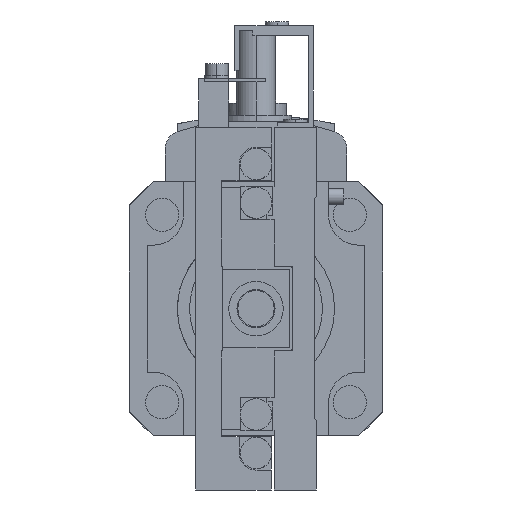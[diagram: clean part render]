
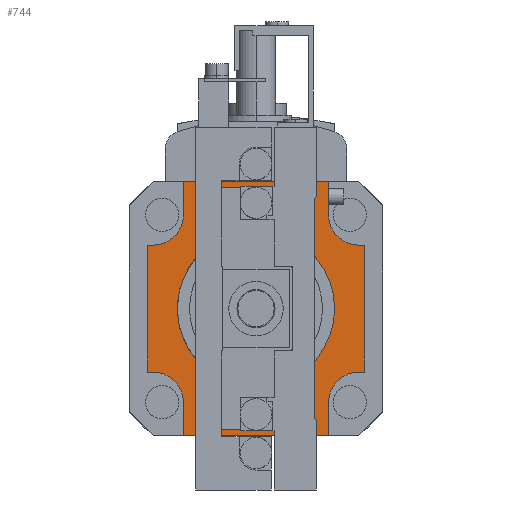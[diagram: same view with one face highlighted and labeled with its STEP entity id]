
A CAD part, left-side view. The second image highlights one B-rep face of the part: STEP entity #744.
In plain terms, the highlighted planar face has unit normal (-1, 0, 0).
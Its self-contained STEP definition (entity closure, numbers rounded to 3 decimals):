
#744=ADVANCED_FACE('',(#1929,#1930),#1931,.F.);
#1929=FACE_BOUND('',#3408,.T.);
#1930=FACE_OUTER_BOUND('',#3409,.T.);
#1931=PLANE('',#3410);
#3408=EDGE_LOOP('',(#7382,#7383,#7384,#7385,#7386,#7387,#7388,#7389,#7390,#7391,#7392,#7393,#7394,#7395));
#3409=EDGE_LOOP('',(#7396,#7397,#7398,#7399,#7400,#7401,#7402,#7403,#7404,#7405,#7406,#7407,#7408,#7409,#7410,#7411));
#3410=AXIS2_PLACEMENT_3D('',#7412,#7413,#7414);
#7382=ORIENTED_EDGE('',*,*,#10689,.F.);
#7383=ORIENTED_EDGE('',*,*,#10447,.T.);
#7384=ORIENTED_EDGE('',*,*,#10690,.F.);
#7385=ORIENTED_EDGE('',*,*,#10691,.F.);
#7386=ORIENTED_EDGE('',*,*,#10692,.T.);
#7387=ORIENTED_EDGE('',*,*,#10693,.T.);
#7388=ORIENTED_EDGE('',*,*,#10694,.F.);
#7389=ORIENTED_EDGE('',*,*,#10695,.F.);
#7390=ORIENTED_EDGE('',*,*,#10435,.T.);
#7391=ORIENTED_EDGE('',*,*,#10696,.F.);
#7392=ORIENTED_EDGE('',*,*,#10697,.F.);
#7393=ORIENTED_EDGE('',*,*,#10698,.T.);
#7394=ORIENTED_EDGE('',*,*,#10699,.T.);
#7395=ORIENTED_EDGE('',*,*,#10700,.F.);
#7396=ORIENTED_EDGE('',*,*,#10542,.F.);
#7397=ORIENTED_EDGE('',*,*,#10615,.F.);
#7398=ORIENTED_EDGE('',*,*,#10701,.T.);
#7399=ORIENTED_EDGE('',*,*,#10702,.F.);
#7400=ORIENTED_EDGE('',*,*,#10588,.F.);
#7401=ORIENTED_EDGE('',*,*,#10617,.F.);
#7402=ORIENTED_EDGE('',*,*,#10644,.T.);
#7403=ORIENTED_EDGE('',*,*,#10575,.F.);
#7404=ORIENTED_EDGE('',*,*,#10625,.F.);
#7405=ORIENTED_EDGE('',*,*,#10566,.F.);
#7406=ORIENTED_EDGE('',*,*,#10630,.T.);
#7407=ORIENTED_EDGE('',*,*,#10626,.F.);
#7408=ORIENTED_EDGE('',*,*,#10634,.F.);
#7409=ORIENTED_EDGE('',*,*,#10703,.F.);
#7410=ORIENTED_EDGE('',*,*,#10704,.T.);
#7411=ORIENTED_EDGE('',*,*,#10599,.F.);
#7412=CARTESIAN_POINT('',(67.5,-7.0,15.5));
#7413=DIRECTION('',(1.0,0.0,0.0));
#7414=DIRECTION('',(0.0,1.0,0.0));
#10435=EDGE_CURVE('',#12799,#12797,#12800,.T.);
#10447=EDGE_CURVE('',#12820,#12818,#12821,.T.);
#10542=EDGE_CURVE('',#12984,#12986,#12987,.T.);
#10566=EDGE_CURVE('',#13027,#13029,#13030,.T.);
#10575=EDGE_CURVE('',#13044,#13046,#13047,.T.);
#10588=EDGE_CURVE('',#13066,#13067,#13068,.T.);
#10599=EDGE_CURVE('',#12986,#13083,#13084,.T.);
#10615=EDGE_CURVE('',#13104,#12984,#13106,.T.);
#10617=EDGE_CURVE('',#13108,#13066,#13109,.T.);
#10625=EDGE_CURVE('',#13029,#13044,#13120,.T.);
#10626=EDGE_CURVE('',#13121,#13122,#13123,.T.);
#10630=EDGE_CURVE('',#13027,#13122,#13129,.T.);
#10634=EDGE_CURVE('',#13133,#13121,#13134,.T.);
#10644=EDGE_CURVE('',#13108,#13046,#13148,.T.);
#10689=EDGE_CURVE('',#12820,#13209,#13210,.T.);
#10690=EDGE_CURVE('',#13211,#12818,#13212,.T.);
#10691=EDGE_CURVE('',#13213,#13211,#13214,.T.);
#10692=EDGE_CURVE('',#13213,#13215,#13216,.T.);
#10693=EDGE_CURVE('',#13215,#13217,#13218,.T.);
#10694=EDGE_CURVE('',#13219,#13217,#13220,.T.);
#10695=EDGE_CURVE('',#12799,#13219,#13221,.T.);
#10696=EDGE_CURVE('',#13222,#12797,#13223,.T.);
#10697=EDGE_CURVE('',#13224,#13222,#13225,.T.);
#10698=EDGE_CURVE('',#13224,#13226,#13227,.T.);
#10699=EDGE_CURVE('',#13226,#13228,#13229,.T.);
#10700=EDGE_CURVE('',#13209,#13228,#13230,.T.);
#10701=EDGE_CURVE('',#13104,#13231,#13232,.T.);
#10702=EDGE_CURVE('',#13067,#13231,#13233,.T.);
#10703=EDGE_CURVE('',#13234,#13133,#13235,.T.);
#10704=EDGE_CURVE('',#13234,#13083,#13236,.T.);
#12797=VERTEX_POINT('',#16266);
#12799=VERTEX_POINT('',#16268);
#12800=CIRCLE('',#16269,13.0);
#12818=VERTEX_POINT('',#16400);
#12820=VERTEX_POINT('',#16402);
#12821=CIRCLE('',#16403,13.0);
#12984=VERTEX_POINT('',#16702);
#12986=VERTEX_POINT('',#16705);
#12987=LINE('',#16706,#16707);
#13027=VERTEX_POINT('',#16763);
#13029=VERTEX_POINT('',#16766);
#13030=LINE('',#16767,#16768);
#13044=VERTEX_POINT('',#16789);
#13046=VERTEX_POINT('',#16792);
#13047=LINE('',#16793,#16794);
#13066=VERTEX_POINT('',#16821);
#13067=VERTEX_POINT('',#16822);
#13068=LINE('',#16823,#16824);
#13083=VERTEX_POINT('',#16846);
#13084=LINE('',#16847,#16848);
#13104=VERTEX_POINT('',#16878);
#13106=LINE('',#16881,#16882);
#13108=VERTEX_POINT('',#16885);
#13109=LINE('',#16886,#16887);
#13120=LINE('',#16905,#16906);
#13121=VERTEX_POINT('',#16907);
#13122=VERTEX_POINT('',#16908);
#13123=LINE('',#16909,#16910);
#13129=CIRCLE('',#16919,5.0);
#13133=VERTEX_POINT('',#16925);
#13134=LINE('',#16926,#16927);
#13148=CIRCLE('',#16945,5.0);
#13209=VERTEX_POINT('',#17040);
#13210=LINE('',#17041,#17042);
#13211=VERTEX_POINT('',#17043);
#13212=LINE('',#17044,#17045);
#13213=VERTEX_POINT('',#17046);
#13214=LINE('',#17047,#17048);
#13215=VERTEX_POINT('',#17049);
#13216=LINE('',#17050,#17051);
#13217=VERTEX_POINT('',#17052);
#13218=LINE('',#17053,#17054);
#13219=VERTEX_POINT('',#17055);
#13220=LINE('',#17056,#17057);
#13221=LINE('',#17058,#17059);
#13222=VERTEX_POINT('',#17060);
#13223=LINE('',#17061,#17062);
#13224=VERTEX_POINT('',#17063);
#13225=LINE('',#17064,#17065);
#13226=VERTEX_POINT('',#17066);
#13227=LINE('',#17067,#17068);
#13228=VERTEX_POINT('',#17069);
#13229=LINE('',#17070,#17071);
#13230=LINE('',#17072,#17073);
#13231=VERTEX_POINT('',#17074);
#13232=CIRCLE('',#17075,5.0);
#13233=LINE('',#17076,#17077);
#13234=VERTEX_POINT('',#17078);
#13235=LINE('',#17079,#17080);
#13236=CIRCLE('',#17081,5.0);
#16266=CARTESIAN_POINT('',(67.5,7.75,-12.804));
#16268=CARTESIAN_POINT('',(67.5,7.75,12.804));
#16269=AXIS2_PLACEMENT_3D('',#20011,#20012,#20013);
#16400=CARTESIAN_POINT('',(67.5,18.307,10.0));
#16402=CARTESIAN_POINT('',(67.5,18.307,-10.0));
#16403=AXIS2_PLACEMENT_3D('',#20025,#20026,#20027);
#16702=CARTESIAN_POINT('',(67.5,22.0,21.0));
#16705=CARTESIAN_POINT('',(67.5,-2.0,21.0));
#16706=CARTESIAN_POINT('',(67.5,22.0,21.0));
#16707=VECTOR('',#20142,1000.0);
#16763=CARTESIAN_POINT('',(67.5,-2.0,-15.5));
#16766=CARTESIAN_POINT('',(67.5,-2.0,-21.0));
#16767=CARTESIAN_POINT('',(67.5,-2.0,-15.5));
#16768=VECTOR('',#20178,1000.0);
#16789=CARTESIAN_POINT('',(67.5,22.0,-21.0));
#16792=CARTESIAN_POINT('',(67.5,22.0,-15.5));
#16793=CARTESIAN_POINT('',(67.5,22.0,-21.0));
#16794=VECTOR('',#20187,1000.0);
#16821=CARTESIAN_POINT('',(67.5,28.0,-10.5));
#16822=CARTESIAN_POINT('',(67.5,28.0,10.5));
#16823=CARTESIAN_POINT('',(67.5,28.0,-10.5));
#16824=VECTOR('',#20208,1000.0);
#16846=CARTESIAN_POINT('',(67.5,-2.0,15.5));
#16847=CARTESIAN_POINT('',(67.5,-2.0,21.0));
#16848=VECTOR('',#20225,1000.0);
#16878=CARTESIAN_POINT('',(67.5,22.0,15.5));
#16881=CARTESIAN_POINT('',(67.5,22.0,15.5));
#16882=VECTOR('',#20249,1000.0);
#16885=CARTESIAN_POINT('',(67.5,27.0,-10.5));
#16886=CARTESIAN_POINT('',(67.5,27.0,-10.5));
#16887=VECTOR('',#20251,1000.0);
#16905=CARTESIAN_POINT('',(67.5,-2.0,-21.0));
#16906=VECTOR('',#20259,1000.0);
#16907=CARTESIAN_POINT('',(67.5,-8.0,-10.5));
#16908=CARTESIAN_POINT('',(67.5,-7.0,-10.5));
#16909=CARTESIAN_POINT('',(67.5,-8.0,-10.5));
#16910=VECTOR('',#20260,1000.0);
#16919=AXIS2_PLACEMENT_3D('',#20264,#20265,#20266);
#16925=CARTESIAN_POINT('',(67.5,-8.0,10.5));
#16926=CARTESIAN_POINT('',(67.5,-8.0,10.5));
#16927=VECTOR('',#20272,1000.0);
#16945=AXIS2_PLACEMENT_3D('',#20292,#20293,#20294);
#17040=CARTESIAN_POINT('',(67.5,18.5,-10.0));
#17041=CARTESIAN_POINT('',(67.5,7.75,-10.0));
#17042=VECTOR('',#20359,1000.0);
#17043=CARTESIAN_POINT('',(67.5,18.5,10.0));
#17044=CARTESIAN_POINT('',(67.5,19.5,10.0));
#17045=VECTOR('',#20360,1000.0);
#17046=CARTESIAN_POINT('',(67.5,18.5,20.0));
#17047=CARTESIAN_POINT('',(67.5,18.5,20.0));
#17048=VECTOR('',#20361,1000.0);
#17049=CARTESIAN_POINT('',(67.5,1.5,20.0));
#17050=CARTESIAN_POINT('',(67.5,19.5,20.0));
#17051=VECTOR('',#20362,1000.0);
#17052=CARTESIAN_POINT('',(67.5,1.5,14.25));
#17053=CARTESIAN_POINT('',(67.5,1.5,20.0));
#17054=VECTOR('',#20363,1000.0);
#17055=CARTESIAN_POINT('',(67.5,7.75,14.25));
#17056=CARTESIAN_POINT('',(67.5,7.75,14.25));
#17057=VECTOR('',#20364,1000.0);
#17058=CARTESIAN_POINT('',(67.5,7.75,10.0));
#17059=VECTOR('',#20365,1000.0);
#17060=CARTESIAN_POINT('',(67.5,7.75,-14.25));
#17061=CARTESIAN_POINT('',(67.5,7.75,-14.25));
#17062=VECTOR('',#20366,1000.0);
#17063=CARTESIAN_POINT('',(67.5,1.5,-14.25));
#17064=CARTESIAN_POINT('',(67.5,0.5,-14.25));
#17065=VECTOR('',#20367,1000.0);
#17066=CARTESIAN_POINT('',(67.5,1.5,-20.0));
#17067=CARTESIAN_POINT('',(67.5,1.5,20.0));
#17068=VECTOR('',#20368,1000.0);
#17069=CARTESIAN_POINT('',(67.5,18.5,-20.0));
#17070=CARTESIAN_POINT('',(67.5,0.5,-20.0));
#17071=VECTOR('',#20369,1000.0);
#17072=CARTESIAN_POINT('',(67.5,18.5,20.0));
#17073=VECTOR('',#20370,1000.0);
#17074=CARTESIAN_POINT('',(67.5,27.0,10.5));
#17075=AXIS2_PLACEMENT_3D('',#20371,#20372,#20373);
#17076=CARTESIAN_POINT('',(67.5,28.0,10.5));
#17077=VECTOR('',#20374,1000.0);
#17078=CARTESIAN_POINT('',(67.5,-7.0,10.5));
#17079=CARTESIAN_POINT('',(67.5,-7.0,10.5));
#17080=VECTOR('',#20375,1000.0);
#17081=AXIS2_PLACEMENT_3D('',#20376,#20377,#20378);
#20011=CARTESIAN_POINT('',(67.5,10.0,0.0));
#20012=DIRECTION('',(1.0,0.0,0.0));
#20013=DIRECTION('',(0.0,0.0,-1.0));
#20025=CARTESIAN_POINT('',(67.5,10.0,0.0));
#20026=DIRECTION('',(1.0,0.0,0.0));
#20027=DIRECTION('',(0.0,0.0,-1.0));
#20142=DIRECTION('',(0.0,-1.0,0.0));
#20178=DIRECTION('',(0.0,0.0,-1.0));
#20187=DIRECTION('',(0.0,0.0,1.0));
#20208=DIRECTION('',(0.0,0.0,1.0));
#20225=DIRECTION('',(0.0,0.0,-1.0));
#20249=DIRECTION('',(0.0,0.0,1.0));
#20251=DIRECTION('',(0.0,1.0,0.0));
#20259=DIRECTION('',(0.0,1.0,0.0));
#20260=DIRECTION('',(0.0,1.0,0.0));
#20264=CARTESIAN_POINT('',(67.5,-7.0,-15.5));
#20265=DIRECTION('',(1.0,0.0,0.0));
#20266=DIRECTION('',(0.0,0.0,-1.0));
#20272=DIRECTION('',(0.0,0.0,-1.0));
#20292=CARTESIAN_POINT('',(67.5,27.0,-15.5));
#20293=DIRECTION('',(1.0,0.0,0.0));
#20294=DIRECTION('',(0.0,0.0,-1.0));
#20359=DIRECTION('',(0.0,1.0,0.0));
#20360=DIRECTION('',(0.0,-1.0,0.0));
#20361=DIRECTION('',(0.0,0.0,-1.0));
#20362=DIRECTION('',(0.0,-1.0,0.0));
#20363=DIRECTION('',(0.0,0.0,-1.0));
#20364=DIRECTION('',(0.0,-1.0,0.0));
#20365=DIRECTION('',(0.0,0.0,1.0));
#20366=DIRECTION('',(0.0,0.0,1.0));
#20367=DIRECTION('',(0.0,1.0,0.0));
#20368=DIRECTION('',(0.0,0.0,-1.0));
#20369=DIRECTION('',(0.0,1.0,0.0));
#20370=DIRECTION('',(0.0,0.0,-1.0));
#20371=CARTESIAN_POINT('',(67.5,27.0,15.5));
#20372=DIRECTION('',(1.0,0.0,0.0));
#20373=DIRECTION('',(0.0,0.0,-1.0));
#20374=DIRECTION('',(0.0,-1.0,0.0));
#20375=DIRECTION('',(0.0,-1.0,0.0));
#20376=CARTESIAN_POINT('',(67.5,-7.0,15.5));
#20377=DIRECTION('',(1.0,0.0,0.0));
#20378=DIRECTION('',(0.0,0.0,-1.0));
